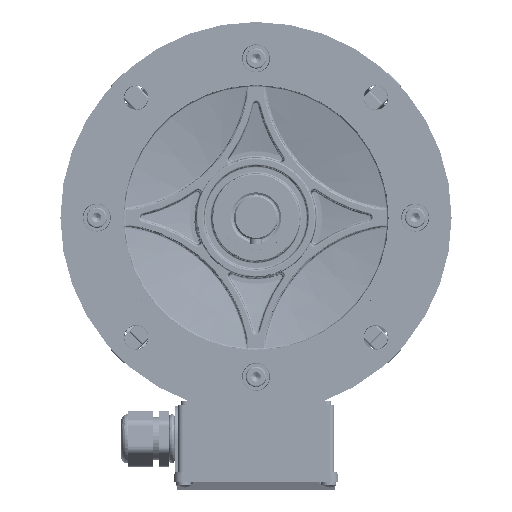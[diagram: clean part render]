
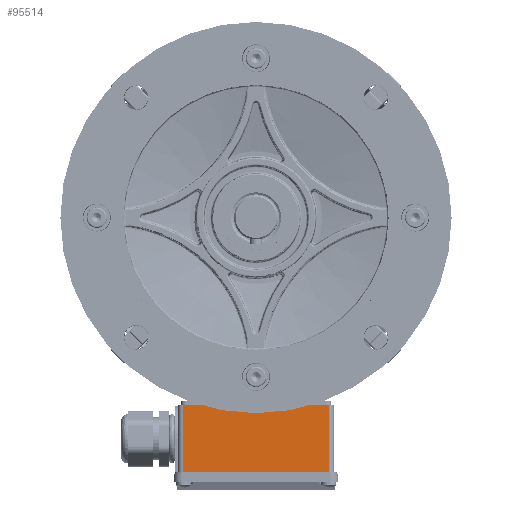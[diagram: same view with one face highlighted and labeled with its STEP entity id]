
A CAD part, top view. The second image highlights one B-rep face of the part: STEP entity #95514.
In plain terms, the highlighted planar face has unit normal (0, 0, 1) as drawn and (-1, 0, 0) by its records, which use the part's own axes.
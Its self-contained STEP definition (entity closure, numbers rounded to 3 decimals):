
#5762 = CARTESIAN_POINT ( 'NONE',  ( -49.488, 47., 46.126 ) ) ;
#5766 = PLANE ( 'NONE',  #126362 ) ;
#5770 = DIRECTION ( 'NONE',  ( 1., 0., 0. ) ) ;
#5772 = DIRECTION ( 'NONE',  ( 0., 0., -1. ) ) ;
#29450 = CARTESIAN_POINT ( 'NONE',  ( -49.488, 0., 46.126 ) ) ;
#29470 = CARTESIAN_POINT ( 'NONE',  ( -49.488, 43., 46.126 ) ) ;
#31416 = EDGE_CURVE ( 'NONE', #87415, #87394, #229350, .T. ) ;
#45016 = ORIENTED_EDGE ( 'NONE', *, *, #31416, .F. ) ;
#45019 = ORIENTED_EDGE ( 'NONE', *, *, #53054, .T. ) ;
#45022 = ORIENTED_EDGE ( 'NONE', *, *, #53049, .F. ) ;
#45025 = ORIENTED_EDGE ( 'NONE', *, *, #53058, .T. ) ;
#53049 = EDGE_CURVE ( 'NONE', #56723, #56712, #53396, .T. ) ;
#53054 = EDGE_CURVE ( 'NONE', #87415, #56712, #53381, .T. ) ;
#53058 = EDGE_CURVE ( 'NONE', #56723, #87394, #53424, .T. ) ;
#53381 = LINE ( 'NONE', #77304, #53420 ) ;
#53396 = LINE ( 'NONE', #77296, #53404 ) ;
#53404 = VECTOR ( 'NONE', #77300, 1000. ) ;
#53420 = VECTOR ( 'NONE', #77205, 1000. ) ;
#53424 = LINE ( 'NONE', #77312, #53431 ) ;
#53431 = VECTOR ( 'NONE', #77303, 1000. ) ;
#56712 = VERTEX_POINT ( 'NONE', #29450 ) ;
#56723 = VERTEX_POINT ( 'NONE', #29470 ) ;
#77205 = DIRECTION ( 'NONE',  ( 0., 0., 1. ) ) ;
#77296 = CARTESIAN_POINT ( 'NONE',  ( -49.488, 47., 46.126 ) ) ;
#77300 = DIRECTION ( 'NONE',  ( 0., -1., 0. ) ) ;
#77303 = DIRECTION ( 'NONE',  ( 0., 0., -1. ) ) ;
#77304 = CARTESIAN_POINT ( 'NONE',  ( -49.488, 0., -46.512 ) ) ;
#77312 = CARTESIAN_POINT ( 'NONE',  ( -49.488, 43., -46.512 ) ) ;
#87394 = VERTEX_POINT ( 'NONE', #184034 ) ;
#87415 = VERTEX_POINT ( 'NONE', #184051 ) ;
#90920 = DIRECTION ( 'NONE',  ( 0., 1., 0. ) ) ;
#90921 = CARTESIAN_POINT ( 'NONE',  ( -49.488, 47., -46.126 ) ) ;
#95514 = ADVANCED_FACE ( 'NONE', ( #199460 ), #5766, .F. ) ;
#126362 = AXIS2_PLACEMENT_3D ( 'NONE', #5762, #5770, #5772 ) ;
#184034 = CARTESIAN_POINT ( 'NONE',  ( -49.488, 43., -46.126 ) ) ;
#184051 = CARTESIAN_POINT ( 'NONE',  ( -49.488, 0., -46.126 ) ) ;
#199460 = FACE_OUTER_BOUND ( 'NONE', #225619, .T. ) ;
#225619 = EDGE_LOOP ( 'NONE', ( #45016, #45019, #45022, #45025 ) ) ;
#229350 = LINE ( 'NONE', #90921, #229353 ) ;
#229353 = VECTOR ( 'NONE', #90920, 1000. ) ;
